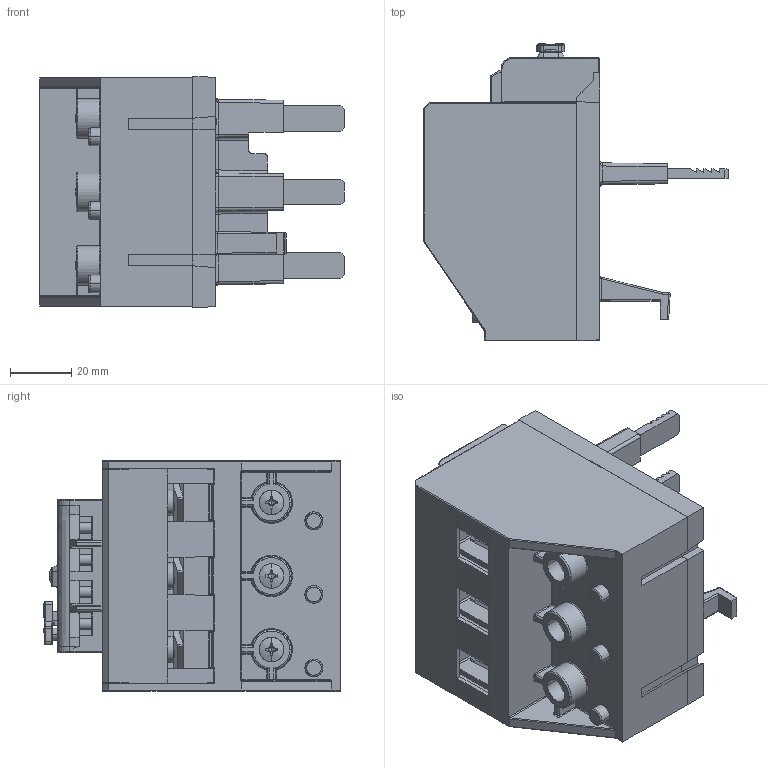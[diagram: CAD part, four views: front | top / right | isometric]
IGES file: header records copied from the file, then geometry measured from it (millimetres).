
Start section: SolidWorks IGES file using analytic representation for surfaces
Global section: file name: Q:\GROUPS\BR_SC_JGS_WA_TECNICO\ENG\Usuarios\Rodrigob\conversão\Reles de Sobrecarga\Produto\RW117-1D3\RW117-1D3.IGS; native system: SolidWorks 2015; preprocessor: SolidWorks 2015; author: rodrigob; date: 160523.072628; units: millimetre
Bounding box: 99.5 x 96.9 x 75.13 mm (x, y, z)
Surface area: 98214.1 mm2 (no closed solid volume)
Topology: 0 solids, 0 shells, 2770 faces, 25153 edges, 25094 vertices
Faces by surface type: bspline 1770, revolution 1000
